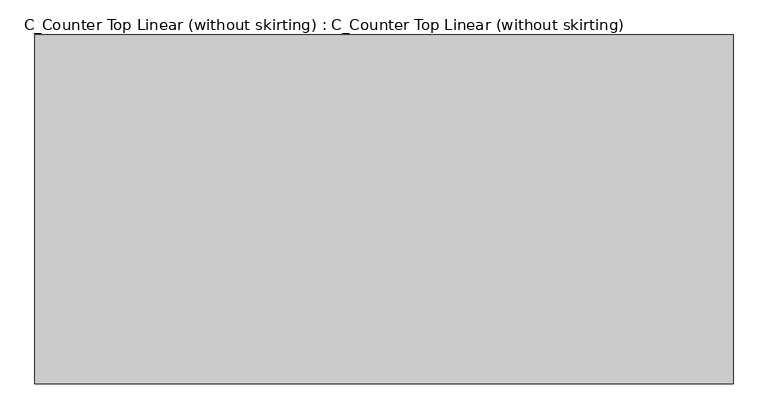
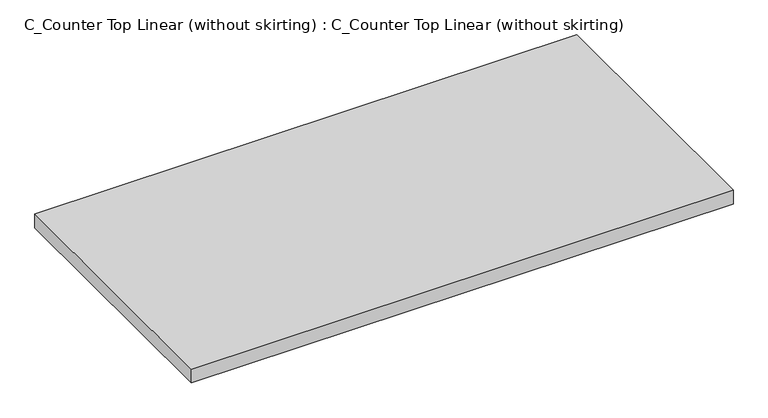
"""IFC4 building model written with IfcOpenShell, lengths in millimetres: furniture geometry, C_Counter Top Linear (without skirting) : C_Counter Top Linear (without skirting)."""

from ifc_helpers import new_model, si_unit, origin, origin_with_axes, place, context, project, spatial, polyline, outline, extrude, source, transform, mapped, element, save


def c_counter_top_linear_without_skirting_c_counter_top_linear_7753b59d(model_context):
    return source(origin(), model_context, "Body", "SweptSolid", [
        extrude(outline(polyline([(711.2, 0.0), (-711.2, 0.0), (-711.2, 711.2), (711.2, 711.2), (711.2, 0.0)])), origin_with_axes(), (0.0, 0.0, 1.0), 38.1),
    ])


if __name__ == "__main__":
    model = new_model("IFC4")
    model_context = context("Model", 3, world=origin())
    ifc_project = project(units=[si_unit("LENGTHUNIT", "METRE", prefix="MILLI")], contexts=[model_context])
    site = spatial("IfcSite", under=ifc_project)
    building = spatial("IfcBuilding", under=site)
    placement = place(None, origin())
    c_counter_top_linear_without_skirting_c_counter_top_linear_shape = c_counter_top_linear_without_skirting_c_counter_top_linear_7753b59d(model_context)
    element("IfcFurniture", 1, ObjectType="C_Counter Top Linear (without skirting) : C_Counter Top Linear (without skirting)", at=placement, inside=building, context=model_context, shape_type="MappedRepresentation", body=[
        mapped(c_counter_top_linear_without_skirting_c_counter_top_linear_shape, transform((0.0, 0.0, 0.0), x_axis=(1.0, 0.0, 0.0), y_axis=(0.0, 1.0, 0.0), z_axis=(0.0, 0.0, 1.0))),
    ])
    save(model, "model.ifc")
